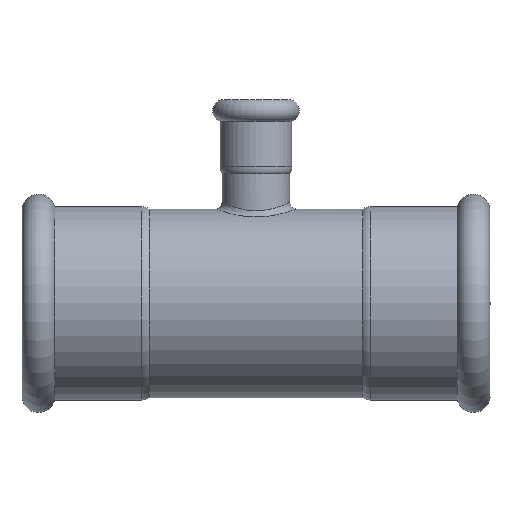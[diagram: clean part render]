
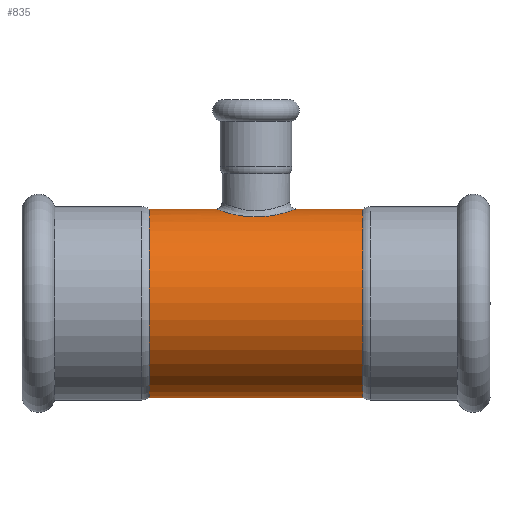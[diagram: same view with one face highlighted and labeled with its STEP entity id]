
A CAD part, front view. The second image highlights one B-rep face of the part: STEP entity #835.
In plain terms, the highlighted cylindrical face has radius 28 mm (diameter 56 mm), a full revolution.
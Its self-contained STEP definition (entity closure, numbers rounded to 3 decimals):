
#20=B_SPLINE_CURVE_WITH_KNOTS('',3,(#1783,#1784,#1785,#1786,#1787,#1788,
#1789,#1790,#1791,#1792,#1793,#1794,#1795,#1796,#1797,#1798,#1799,#1800,
#1801),.UNSPECIFIED.,.T.,.F.,(4,1,1,1,1,1,1,1,1,1,1,1,1,1,1,1,4),(-6.086,
-5.651,-5.216,-4.637,-4.492,
-4.347,-3.767,-3.477,-2.898,
-2.608,-2.318,-2.029,-1.739,-1.304,
-0.869,-0.435,0.),.UNSPECIFIED.);
#28=FACE_BOUND('',#157,.T.);
#45=LINE('',#1813,#67);
#67=VECTOR('',#1243,28.);
#86=CYLINDRICAL_SURFACE('',#971,28.);
#116=FACE_OUTER_BOUND('',#156,.T.);
#156=EDGE_LOOP('',(#692,#693,#694,#695,#696,#697,#698,#699));
#157=EDGE_LOOP('',(#700));
#250=CIRCLE('',#972,28.);
#251=CIRCLE('',#973,28.);
#252=CIRCLE('',#974,28.);
#253=CIRCLE('',#975,28.);
#254=CIRCLE('',#976,28.);
#255=CIRCLE('',#977,28.);
#353=VERTEX_POINT('',#1756);
#357=VERTEX_POINT('',#1807);
#358=VERTEX_POINT('',#1808);
#359=VERTEX_POINT('',#1810);
#360=VERTEX_POINT('',#1812);
#361=VERTEX_POINT('',#1814);
#362=VERTEX_POINT('',#1816);
#479=EDGE_CURVE('',#353,#353,#20,.T.);
#482=EDGE_CURVE('',#357,#358,#250,.T.);
#483=EDGE_CURVE('',#359,#357,#251,.T.);
#484=EDGE_CURVE('',#359,#360,#45,.T.);
#485=EDGE_CURVE('',#360,#361,#252,.T.);
#486=EDGE_CURVE('',#361,#362,#253,.T.);
#487=EDGE_CURVE('',#362,#360,#254,.T.);
#488=EDGE_CURVE('',#358,#359,#255,.T.);
#692=ORIENTED_EDGE('',*,*,#482,.F.);
#693=ORIENTED_EDGE('',*,*,#483,.F.);
#694=ORIENTED_EDGE('',*,*,#484,.T.);
#695=ORIENTED_EDGE('',*,*,#485,.T.);
#696=ORIENTED_EDGE('',*,*,#486,.T.);
#697=ORIENTED_EDGE('',*,*,#487,.T.);
#698=ORIENTED_EDGE('',*,*,#484,.F.);
#699=ORIENTED_EDGE('',*,*,#488,.F.);
#700=ORIENTED_EDGE('',*,*,#479,.F.);
#835=ADVANCED_FACE('',(#116,#28),#86,.T.);
#971=AXIS2_PLACEMENT_3D('',#1806,#1237,#1238);
#972=AXIS2_PLACEMENT_3D('',#1809,#1239,#1240);
#973=AXIS2_PLACEMENT_3D('',#1811,#1241,#1242);
#974=AXIS2_PLACEMENT_3D('',#1815,#1244,#1245);
#975=AXIS2_PLACEMENT_3D('',#1817,#1246,#1247);
#976=AXIS2_PLACEMENT_3D('',#1818,#1248,#1249);
#977=AXIS2_PLACEMENT_3D('',#1819,#1250,#1251);
#1237=DIRECTION('center_axis',(1.,0.,0.));
#1238=DIRECTION('ref_axis',(0.,1.,0.));
#1239=DIRECTION('center_axis',(1.,0.,0.));
#1240=DIRECTION('ref_axis',(0.,1.,0.));
#1241=DIRECTION('center_axis',(1.,0.,0.));
#1242=DIRECTION('ref_axis',(0.,1.,0.));
#1243=DIRECTION('',(-1.,0.,0.));
#1244=DIRECTION('center_axis',(1.,0.,0.));
#1245=DIRECTION('ref_axis',(0.,1.,0.));
#1246=DIRECTION('center_axis',(1.,0.,0.));
#1247=DIRECTION('ref_axis',(0.,1.,0.));
#1248=DIRECTION('center_axis',(1.,0.,0.));
#1249=DIRECTION('ref_axis',(0.,1.,0.));
#1250=DIRECTION('center_axis',(1.,0.,0.));
#1251=DIRECTION('ref_axis',(0.,1.,0.));
#1756=CARTESIAN_POINT('',(0.,11.2,25.662));
#1783=CARTESIAN_POINT('Ctrl Pts',(0.,11.2,25.662));
#1784=CARTESIAN_POINT('Ctrl Pts',(-1.815,11.2,25.662));
#1785=CARTESIAN_POINT('Ctrl Pts',(-5.426,10.406,26.022));
#1786=CARTESIAN_POINT('Ctrl Pts',(-10.153,6.891,27.286));
#1787=CARTESIAN_POINT('Ctrl Pts',(-12.018,2.556,28.012));
#1788=CARTESIAN_POINT('Ctrl Pts',(-12.01,-0.85,
28.003));
#1789=CARTESIAN_POINT('Ctrl Pts',(-11.468,-4.211,27.803));
#1790=CARTESIAN_POINT('Ctrl Pts',(-9.268,-7.697,27.006));
#1791=CARTESIAN_POINT('Ctrl Pts',(-4.337,-10.864,25.838));
#1792=CARTESIAN_POINT('Ctrl Pts',(0.672,-11.596,25.481));
#1793=CARTESIAN_POINT('Ctrl Pts',(5.322,-10.22,26.087));
#1794=CARTESIAN_POINT('Ctrl Pts',(8.282,-8.332,26.766));
#1795=CARTESIAN_POINT('Ctrl Pts',(10.527,-5.713,27.465));
#1796=CARTESIAN_POINT('Ctrl Pts',(12.099,-2.036,28.035));
#1797=CARTESIAN_POINT('Ctrl Pts',(12.098,2.62,28.034));
#1798=CARTESIAN_POINT('Ctrl Pts',(9.674,7.236,27.153));
#1799=CARTESIAN_POINT('Ctrl Pts',(5.43,10.41,26.026));
#1800=CARTESIAN_POINT('Ctrl Pts',(1.815,11.2,25.662));
#1801=CARTESIAN_POINT('Ctrl Pts',(0.,11.2,25.662));
#1806=CARTESIAN_POINT('Origin',(26.817,0.,0.));
#1807=CARTESIAN_POINT('',(31.735,28.,0.));
#1808=CARTESIAN_POINT('',(31.735,0.,28.));
#1809=CARTESIAN_POINT('Origin',(31.735,0.,0.));
#1810=CARTESIAN_POINT('',(31.735,-28.,0.));
#1811=CARTESIAN_POINT('Origin',(31.735,0.,0.));
#1812=CARTESIAN_POINT('',(-31.735,-28.,0.));
#1813=CARTESIAN_POINT('',(26.817,-28.,0.));
#1814=CARTESIAN_POINT('',(-31.735,28.,0.));
#1815=CARTESIAN_POINT('Origin',(-31.735,0.,0.));
#1816=CARTESIAN_POINT('',(-31.735,0.,28.));
#1817=CARTESIAN_POINT('Origin',(-31.735,0.,0.));
#1818=CARTESIAN_POINT('Origin',(-31.735,0.,0.));
#1819=CARTESIAN_POINT('Origin',(31.735,0.,0.));
